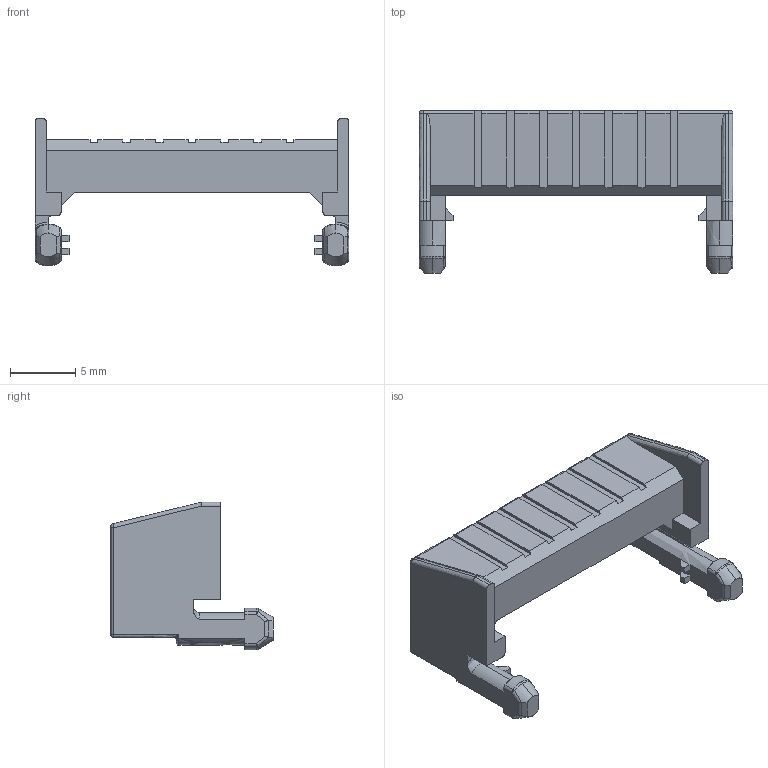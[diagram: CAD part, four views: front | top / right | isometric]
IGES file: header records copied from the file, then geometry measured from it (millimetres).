
Start section: SolidWorks IGES file using analytic representation for surfaces
Bounding box: 24 x 12.4 x 11.3 mm (x, y, z)
Surface area: 912.9 mm2 (no closed solid volume)
Topology: 0 solids, 0 shells, 218 faces, 1394 edges, 1386 vertices
Faces by surface type: bspline 133, revolution 85
